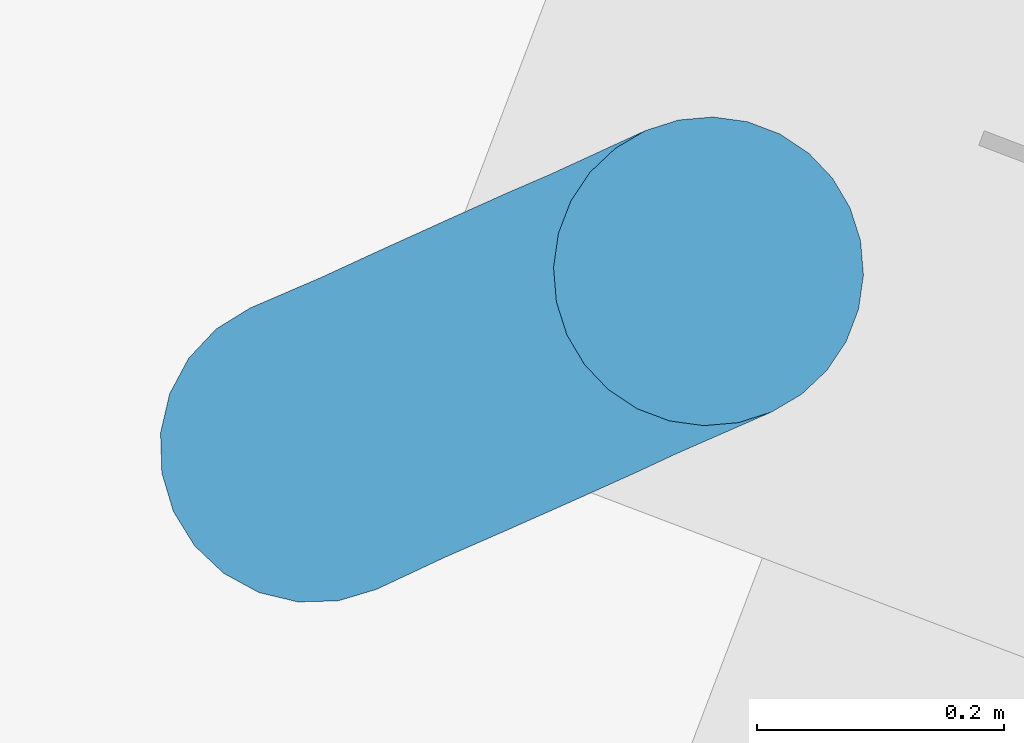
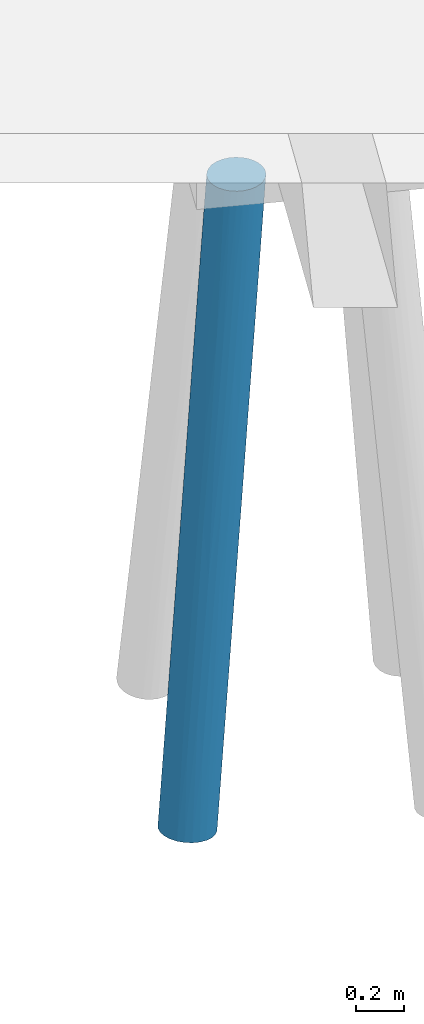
# One storey, part 13 of 46: 1 pile.
"""IFC2X3 building model written with IfcOpenShell, lengths in millimetres."""

from ifc_helpers import new_model, entity, si_unit, converted_unit, derived_unit, direction, frame, origin, place, context, subcontext, project, spatial, faceted_brep, source, transform, mapped, material, type_object, type_shapes, element, save


model = new_model("IFC2X3")

# Units and contexts
model_context = context("Model", 3, precision=0.01, world=origin(), true_north=direction((6.123233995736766e-17, 1.0)))
body_context = subcontext(model_context, "Body", "Model", "MODEL_VIEW")
ifc_project = project(units=[si_unit("LENGTHUNIT", "METRE", prefix="MILLI"), converted_unit("PLANEANGLEUNIT", "DEGREE", entity("IfcPlaneAngleMeasure", 0.017453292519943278), si_unit("PLANEANGLEUNIT", "RADIAN"), dimensions=[0, 0, 0, 0, 0, 0, 0]), si_unit("AREAUNIT", "SQUARE_METRE"), derived_unit("THERMALTRANSMITTANCEUNIT", [(si_unit("MASSUNIT", "GRAM", prefix="KILO"), 1), (si_unit("THERMODYNAMICTEMPERATUREUNIT", "KELVIN"), -1), (si_unit("TIMEUNIT", "SECOND"), -3)])], contexts=[model_context])

# Site, building, storey
site_placement = place(None, frame((-72937.88054949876, 11621.45624098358, 0.0), z_axis=(0.0, 0.0, 1.0), x_axis=(0.9346418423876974, -0.35559053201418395, 0.0)))
site = spatial("IfcSite", under=ifc_project, at=site_placement, Name="Default", CompositionType="ELEMENT")
building_placement = place(site_placement, origin())
building = spatial("IfcBuilding", under=site, at=building_placement, CompositionType="ELEMENT")
storey_placement = place(building_placement, origin())
storey = spatial("IfcBuildingStorey", under=building, at=storey_placement, Name="00 begane grond", CompositionType="ELEMENT", Elevation=0.0)

# Pile
ifc_material = material(Name="beton_gewapend_prefab-element_c45/55")
type_product = type_object("IfcTypeProduct", Name="Type 01", material=ifc_material)
shared_shape = source(origin(), body_context, "Body", "Brep", [
    faceted_brep([(50.02983679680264, 41.219149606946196, -1478.3429510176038), (41.770052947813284, 0.0, -1615.992665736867), (-21.492869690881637, 34.07967924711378, -2142.478153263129), (-196.51418126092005, 41.35907440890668, -1560.459568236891), (-209.7685117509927, 0.0, -1615.993463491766), (-120.39371842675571, 27.815116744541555, -840.0), (-105.46135978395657, 105.60554685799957, -2414.744852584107), (-29.01608810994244, 89.9027707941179, -1907.5825387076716), (-88.8773638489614, 91.39060439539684, -2432.143714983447), (44.04069234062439, 66.4881713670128, -1422.150587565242), (100.55257203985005, 77.93622523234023, -840.0), (115.53639022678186, 54.235467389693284, -840.0), (-181.63351961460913, 47.83542906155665, -3540.4622999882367), (-228.8866429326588, 32.35238063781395, -4013.333582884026), (-241.29781855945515, 62.499999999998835, -4011.9545633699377), (124.838162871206, 27.815116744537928, -840.0), (127.99146025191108, 0.0, -840.0), (80.6380595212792, 97.7289353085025, -840.0), (-1.0422673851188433, 115.29700921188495, -1306.6345347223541), (56.79144948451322, 112.62110848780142, -840.0), (-82.66188090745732, 124.23733970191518, -1479.1096584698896), (-119.59016639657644, 124.77532272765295, -1868.4753366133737), (-148.0004270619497, 121.55050259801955, -1927.9224619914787), (-25.764066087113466, 121.86598902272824, -840.0), (2.2222222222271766, 125.0, -840.0), (35.238837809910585, 88.30507823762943, -1343.9943162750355), (30.208510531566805, 121.86598902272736, -840.0), (-38.42848163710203, 123.4640225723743, -1382.7576650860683), (-59.298226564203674, 117.91120533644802, -1769.4495348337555), (-121.64165871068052, 118.88184081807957, -2304.5646505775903), (-105.46067851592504, 124.17311504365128, -1939.1271630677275), (-181.54271840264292, 0.0, -3625.807607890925), (-224.65342205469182, 0.0, -4013.803940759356), (-186.42266103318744, 99.1691675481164, -3226.87509877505), (-111.16783038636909, 79.40373738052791, -2734.7208670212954), (-187.86059930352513, 76.09517863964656, -3448.7603995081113), (-294.2594631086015, 123.9306076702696, -3360.5895502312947), (-348.8888888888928, 125.0, -4000.0), (-381.04339378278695, 120.74072828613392, -3996.4272772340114), (-71.50265177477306, 37.61355729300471, -2582.985799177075), (-105.1394697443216, 22.11026756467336, -2920.330251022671), (-119.53291308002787, 47.835429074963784, -2981.5568411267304), (-160.26870491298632, 23.53094104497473, -3414.1045295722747), (-238.88036705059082, 115.48494156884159, -3443.09153660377), (-286.7711554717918, 108.25317547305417, -4006.901970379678), (-261.04114782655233, 88.38834764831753, -4009.7608601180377), (-316.7343839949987, 120.74072828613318, -4003.5727227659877), (-61.65923548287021, 74.64816535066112, -2322.8523974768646), (-84.00174733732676, 60.02171841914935, -2608.908596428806), (-151.97718420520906, 123.99260475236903, -2371.21148137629), (-173.2739820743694, 115.31995815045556, -2856.223431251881), (-123.54701580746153, 0.0, -840.0), (-295.99000769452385, 0.0, -2391.9869269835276), (-250.82857575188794, 22.617884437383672, -2004.2180489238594), (-107.44397040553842, 105.89787173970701, -1225.6035634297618), (-76.19361507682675, 97.72893530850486, -840.0), (-52.347005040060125, 112.6211084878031, -840.0), (-281.4812245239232, 123.93060767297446, -3541.076638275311), (-109.06614769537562, 117.57336724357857, -1457.2474766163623), (-111.0919457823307, 54.235467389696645, -840.0), (-15.85514051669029, 105.72630914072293, -1606.5585830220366), (-158.7756678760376, 105.96661342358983, -1688.5825591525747), (-146.68659472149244, 88.47759853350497, -1380.5978408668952), (-404.9818286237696, 23.95962394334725, -3393.901362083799), (-384.5571817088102, 0.0, -3189.0914931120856), (-348.5966640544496, 22.310072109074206, -2883.6216315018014), (-456.47995921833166, 62.500000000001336, -3988.0454366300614), (-468.89113484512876, 32.35238063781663, -3986.6664171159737), (-416.28748070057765, 47.83542904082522, -3560.8267027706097), (-337.6622645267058, 115.48494156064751, -3465.7921474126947), (-411.00662230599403, 108.25317547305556, -3993.0980296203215), (-204.57839676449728, 89.69967503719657, -1912.868459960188), (-241.9682357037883, 100.09571921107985, -2359.71747411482), (-255.69185443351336, 84.13968982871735, -2324.129304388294), (-96.10812759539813, 77.93622523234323, -840.0), (-377.92930595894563, 99.16916753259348, -3572.292603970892), (-436.73662995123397, 88.38834764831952, -3990.239139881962), (-206.9618348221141, 60.37792335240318, -1731.5361763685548), (-296.17437932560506, 43.53585544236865, -2464.5182361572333), (-358.4295495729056, 47.83542903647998, -3040.1053226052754), (-379.61635653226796, 76.09517861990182, -3378.5322028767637), (-430.0136077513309, 0.0, -3598.1993274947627), (-306.3551153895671, 77.61365432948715, -2729.901333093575), (-213.4617402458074, 118.14633713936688, -2411.4959163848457), (-159.2186646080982, 65.41382269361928, -1328.4086999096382), (-67.97340634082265, 109.92592992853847, -2010.6352011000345), (-179.43548008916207, 124.76102802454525, -2404.960456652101), (-13.219750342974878, 66.34050229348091, -1938.3332116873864), (-236.1740964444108, 124.51562049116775, -2886.015168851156), (-270.1086403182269, 119.49229851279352, -2958.6820679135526), (-268.3059733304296, 110.2317272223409, -2741.026078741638), (-320.7170568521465, 99.16916752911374, -3057.382361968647), (-473.12435572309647, 0.0, -3986.1960592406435), (-138.91569201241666, 99.37675608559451, -2796.855638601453), (-220.46267944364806, 123.93060767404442, -2991.909732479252), (-44.45135435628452, 0.0, -2391.9853314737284), (-247.1590829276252, 66.69543969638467, -2127.0964328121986), (-134.55238820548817, 0.0, -3202.8946361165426), (-89.50217198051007, 0.0, -2797.442690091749), (-340.273594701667, 0.0, -2790.5392100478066), (-303.09738986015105, 21.900839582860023, -2473.462328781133), (-246.59414544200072, 45.758522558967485, -2025.9931784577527), (-120.39371842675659, -27.815116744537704, -840.0), (-111.09194578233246, -54.23546738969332, -840.0), (-96.1081275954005, -77.93622523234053, -840.0), (-76.19361507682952, -97.72893530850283, -840.0), (-52.3470050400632, -112.62110848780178, -840.0), (-25.764066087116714, -121.86598902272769, -840.0), (2.22222222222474, -125.0, -840.0), (30.20851053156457, -121.86598902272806, -840.0), (56.7914494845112, -112.62110848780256, -840.0), (80.63805952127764, -97.72893530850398, -840.0), (100.55257203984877, -77.93622523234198, -840.0), (115.53639022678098, -54.23546738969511, -840.0), (124.83816287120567, -27.815116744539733, -840.0), (-241.96823566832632, -100.09571920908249, -2359.717473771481), (-268.30597321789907, -110.23172722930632, -2741.026077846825), (-213.46174017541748, -118.14633716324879, -2411.4959163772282), (-187.1422997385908, -67.5957584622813, -1592.1374826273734), (-196.5141812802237, -41.359074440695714, -1560.4595685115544), (-82.66188086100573, -124.2373397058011, -1479.1096583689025), (-13.219750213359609, -66.3405022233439, -1938.3332109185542), (35.23883807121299, -88.30507821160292, -1343.9943141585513), (-29.016087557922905, -89.90277069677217, -1907.5825346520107), (-109.06614766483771, -117.57336725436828, -1457.2474766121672), (-294.2594631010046, -123.93060767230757, -3360.5895503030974), (-337.66226453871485, -115.48494156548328, -3465.7921476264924), (-381.04339378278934, -120.74072828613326, -3996.4272772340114), (-320.717056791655, -99.16916754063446, -3057.382361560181), (-379.61635651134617, -76.09517863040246, -3378.53220276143), (-377.9293059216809, -99.16916753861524, -3572.292603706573), (-186.42266103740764, -99.16916753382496, -3226.875098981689), (-238.88036707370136, -115.48494156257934, -3443.0915369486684), (-286.77115547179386, -108.25317547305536, -4006.901970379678), (-228.88664293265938, -32.352380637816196, -4013.333582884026), (-181.63351956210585, -47.835429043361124, -3540.4622995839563), (-241.29781855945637, -62.50000000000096, -4011.9545633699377), (-107.44397039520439, -105.89787175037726, -1225.6035634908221), (-38.428481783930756, -123.46402262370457, -1382.7576634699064), (-468.89113484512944, -32.35238063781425, -3986.6664171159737), (-138.91569233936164, -99.37675620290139, -2796.855640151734), (-173.2739821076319, -115.31995832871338, -2856.223427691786), (-160.26870486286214, -23.530941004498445, -3414.104529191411), (-187.86059935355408, -76.09517862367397, -3448.760400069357), (-261.041147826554, -88.38834764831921, -4009.7608601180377), (-306.3551154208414, -77.61365434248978, -2729.901333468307), (-348.8888888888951, -125.0, -4000.0), (-416.2874806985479, -47.83542904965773, -3560.826702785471), (-456.47995921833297, -62.49999999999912, -3988.0454366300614), (-436.7366299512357, -88.38834764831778, -3990.239139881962), (-411.0066223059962, -108.25317547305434, -3993.0980296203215), (-71.50265159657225, -37.613557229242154, -2582.9857977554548), (-21.492869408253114, -34.07967918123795, -2142.4781508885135), (-84.00174724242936, -60.02171839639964, -2608.9085956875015), (-281.4812244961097, -123.9306076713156, -3541.076638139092), (-220.46267940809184, -123.93060767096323, -2991.9097323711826), (-158.7756678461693, -105.9666134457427, -1688.5825592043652), (-148.00042700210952, -121.5505026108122, -1927.922461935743), (-1.0422669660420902, -115.29700910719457, -1306.6345332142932), (-59.298225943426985, -117.91120535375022, -1769.4495288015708), (-15.85514048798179, -105.72630911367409, -1606.5585831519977), (-270.1086403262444, -119.4922985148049, -2958.682068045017), (50.02983688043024, -41.21914955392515, -1478.342950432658), (-146.6865947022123, -88.47759855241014, -1380.5978408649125), (-296.1743793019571, -43.53585546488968, -2464.5182360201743), (-348.59666404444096, -22.310072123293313, -2883.6216314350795), (-358.42954957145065, -47.83542905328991, -3040.1053226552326), (57.21126448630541, -65.80573689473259, -1307.4694469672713), (-67.97340649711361, -109.92593000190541, -2010.6352012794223), (-121.64165783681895, -118.88184074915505, -2304.564644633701), (-105.13946990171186, -22.110267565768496, -2920.330252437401), (-179.43547996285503, -124.76102802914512, -2404.960456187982), (-316.73438399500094, -120.7407282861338, -4003.5727227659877), (-119.53291301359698, -47.8354290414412, -2981.5568406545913), (-250.82857577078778, -22.61788446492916, -2004.218049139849), (-404.98182862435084, -23.95962395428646, -3393.901362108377), (-61.65923550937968, -74.64816548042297, -2322.852396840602), (-243.17628094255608, -45.971171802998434, -1995.9919190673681), (-105.46135971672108, -105.60554680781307, -2414.7448526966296), (-111.16783063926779, -79.40373735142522, -2734.7208695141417), (-119.59016630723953, -124.77532273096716, -1868.4753363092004), (-236.1740963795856, -124.51562049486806, -2886.0151686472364), (-204.57839665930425, -89.69967507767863, -1912.868459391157), (-247.15908295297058, -66.69543974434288, -2127.09643331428), (-88.87736442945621, -91.39060438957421, -2432.1437202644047), (-255.69185439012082, -84.13968979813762, -2324.1293037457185), (-105.46067843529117, -124.17311503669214, -1939.1271628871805), (-168.17815851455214, -123.85607816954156, -2526.387901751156), (-303.0973898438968, -21.90083960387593, -2473.4623286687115)], [[[0, 1, 2]], [[3, 4, 5]], [[6, 7, 8]], [[9, 10, 11]], [[12, 13, 14]], [[15, 16, 1]], [[17, 18, 19]], [[20, 21, 22]], [[23, 24, 20]], [[25, 17, 10]], [[26, 18, 27]], [[27, 20, 24]], [[28, 29, 30]], [[31, 32, 13]], [[33, 34, 35]], [[36, 37, 38]], [[39, 40, 41]], [[41, 42, 12]], [[43, 33, 44]], [[45, 33, 35]], [[46, 43, 44]], [[34, 47, 48]], [[49, 29, 50]], [[4, 51, 5]], [[30, 27, 28]], [[52, 4, 53]], [[54, 55, 56]], [[37, 36, 57]], [[56, 23, 58]], [[46, 37, 57]], [[59, 3, 5]], [[11, 15, 0]], [[3, 53, 4]], [[7, 60, 25]], [[44, 33, 45]], [[54, 61, 62]], [[63, 64, 65]], [[66, 67, 68]], [[36, 38, 69]], [[70, 69, 38]], [[71, 72, 73]], [[74, 55, 62]], [[75, 70, 76]], [[71, 77, 62]], [[78, 79, 65]], [[80, 75, 76]], [[63, 81, 64]], [[82, 80, 79]], [[66, 80, 76]], [[61, 83, 72]], [[59, 84, 3]], [[85, 6, 29]], [[25, 10, 9]], [[86, 21, 30]], [[35, 14, 45]], [[33, 43, 50]], [[54, 56, 58]], [[22, 58, 20]], [[87, 0, 2]], [[0, 15, 1]], [[83, 86, 88]], [[40, 42, 41]], [[89, 69, 90]], [[84, 59, 74]], [[72, 71, 61]], [[91, 80, 82]], [[79, 80, 68]], [[14, 35, 12]], [[92, 81, 67]], [[41, 35, 34]], [[48, 39, 41]], [[93, 8, 34]], [[50, 93, 33]], [[94, 43, 57]], [[36, 69, 89]], [[91, 69, 75]], [[48, 41, 34]], [[95, 2, 1]], [[91, 82, 72]], [[78, 96, 82]], [[90, 91, 72]], [[71, 62, 61]], [[13, 42, 31]], [[41, 12, 35]], [[46, 57, 43]], [[94, 57, 36]], [[97, 31, 42]], [[40, 97, 42]], [[12, 42, 13]], [[98, 97, 40, 95]], [[2, 95, 39]], [[55, 54, 62]], [[61, 54, 58]], [[83, 61, 22]], [[20, 58, 23]], [[58, 22, 61]], [[86, 83, 22]], [[88, 89, 83]], [[29, 49, 30]], [[88, 36, 89]], [[83, 89, 90]], [[40, 39, 95]], [[87, 2, 48]], [[39, 48, 2]], [[87, 48, 47]], [[87, 47, 7]], [[47, 34, 8]], [[9, 0, 87]], [[85, 60, 7]], [[17, 25, 60]], [[87, 7, 9]], [[47, 8, 7]], [[6, 8, 93]], [[50, 6, 93]], [[33, 93, 34]], [[6, 50, 29]], [[50, 43, 94]], [[60, 85, 28]], [[49, 86, 30]], [[60, 28, 18]], [[28, 27, 18]], [[26, 27, 24]], [[20, 27, 21]], [[60, 18, 17]], [[26, 19, 18]], [[84, 62, 77]], [[82, 96, 73]], [[83, 90, 72]], [[91, 90, 69]], [[88, 94, 36]], [[94, 88, 49]], [[66, 68, 80]], [[68, 67, 63]], [[63, 65, 79]], [[81, 63, 67]], [[68, 63, 79]], [[78, 82, 79]], [[65, 99, 100]], [[53, 101, 78]], [[78, 65, 100]], [[70, 75, 69]], [[91, 75, 80]], [[71, 73, 96]], [[73, 72, 82]], [[28, 85, 29]], [[6, 85, 7]], [[52, 53, 100]], [[96, 78, 101]], [[3, 84, 77]], [[62, 84, 74]], [[22, 21, 86]], [[30, 21, 27]], [[0, 9, 11]], [[25, 9, 7]], [[86, 49, 88]], [[94, 49, 50]], [[78, 100, 53]], [[65, 64, 99]], [[52, 100, 99]], [[96, 101, 77]], [[101, 53, 3]], [[3, 77, 101]], [[96, 77, 71]], [[56, 55, 74, 59, 5, 51, 102, 103, 104, 105, 106, 107, 108, 109, 110, 111, 112, 113, 114, 16, 15, 11, 10, 17, 19, 26, 24, 23]], [[4, 102, 51]], [[115, 116, 117]], [[104, 103, 118]], [[103, 102, 119]], [[108, 107, 120]], [[121, 122, 123]], [[107, 124, 120]], [[125, 126, 127]], [[128, 129, 130]], [[131, 132, 133]], [[134, 135, 136]], [[106, 105, 137]], [[109, 108, 138]], [[81, 92, 139]], [[131, 140, 141]], [[31, 97, 142]], [[143, 131, 144]], [[145, 129, 128]], [[125, 127, 146]], [[147, 139, 148]], [[130, 149, 150]], [[151, 152, 153]], [[125, 154, 155]], [[156, 157, 124]], [[158, 159, 160]], [[119, 102, 4]], [[110, 109, 158]], [[126, 125, 161]], [[162, 114, 113]], [[111, 158, 160]], [[163, 137, 105]], [[164, 165, 166]], [[122, 112, 111]], [[1, 16, 114]], [[162, 113, 167]], [[122, 121, 167]], [[168, 159, 169]], [[142, 97, 170]], [[171, 157, 117]], [[146, 172, 154]], [[104, 118, 163]], [[160, 159, 168]], [[104, 163, 105]], [[131, 133, 144]], [[115, 145, 128]], [[143, 144, 136]], [[152, 162, 121]], [[148, 149, 129]], [[151, 153, 173]], [[4, 174, 119]], [[166, 175, 147]], [[176, 121, 123]], [[177, 174, 164]], [[178, 169, 141]], [[132, 172, 133]], [[173, 179, 143]], [[180, 157, 171]], [[137, 156, 124]], [[162, 1, 114]], [[95, 1, 152]], [[126, 150, 127]], [[32, 31, 134]], [[161, 181, 117]], [[115, 156, 182]], [[177, 183, 118]], [[148, 129, 147]], [[145, 164, 166]], [[172, 132, 154]], [[165, 175, 166]], [[178, 141, 140]], [[131, 143, 179]], [[173, 143, 135]], [[140, 184, 178]], [[121, 176, 153]], [[150, 126, 130]], [[117, 116, 161]], [[162, 152, 1]], [[151, 170, 95]], [[129, 145, 166]], [[182, 156, 163]], [[182, 183, 185]], [[156, 115, 117]], [[136, 135, 143]], [[135, 134, 142]], [[146, 154, 125]], [[155, 154, 132]], [[142, 170, 173]], [[31, 142, 134]], [[135, 142, 173]], [[173, 170, 151]], [[98, 95, 170, 97]], [[124, 107, 106]], [[156, 137, 163]], [[106, 137, 124]], [[120, 124, 157]], [[120, 157, 180]], [[117, 157, 156]], [[169, 186, 187]], [[125, 181, 161]], [[128, 126, 116]], [[171, 117, 181]], [[153, 179, 173]], [[152, 151, 95]], [[179, 153, 176]], [[121, 153, 152]], [[176, 184, 179]], [[123, 168, 178]], [[184, 176, 123]], [[122, 111, 160]], [[112, 167, 113]], [[123, 122, 160]], [[131, 179, 140]], [[178, 184, 123]], [[184, 140, 179]], [[132, 131, 141]], [[141, 155, 132]], [[155, 187, 181]], [[155, 141, 187]], [[159, 186, 169]], [[186, 159, 138]], [[138, 158, 109]], [[186, 138, 180]], [[120, 138, 108]], [[159, 158, 138]], [[110, 158, 111]], [[115, 182, 185]], [[183, 182, 118]], [[161, 116, 126]], [[128, 116, 115]], [[171, 181, 187]], [[181, 125, 155]], [[139, 175, 81]], [[166, 147, 129]], [[64, 81, 175]], [[165, 64, 175]], [[147, 175, 139]], [[99, 64, 165]], [[145, 183, 164]], [[164, 188, 165]], [[4, 52, 174]], [[149, 130, 129]], [[128, 130, 126]], [[185, 145, 115]], [[145, 185, 183]], [[160, 168, 123]], [[178, 168, 169]], [[119, 174, 177]], [[164, 174, 188]], [[119, 118, 103]], [[163, 118, 182]], [[120, 180, 138]], [[186, 180, 171]], [[162, 167, 121]], [[122, 167, 112]], [[171, 187, 186]], [[169, 187, 141]], [[165, 188, 99]], [[52, 99, 188]], [[52, 188, 174]], [[119, 177, 118]], [[183, 177, 164]], [[127, 150, 149, 148, 139, 92, 67, 66, 76, 70, 38, 37, 46, 44, 45, 14, 13, 32, 134, 136, 144, 133, 172, 146]]]),
])
type_shapes(type_product, [shared_shape])
pile_placement = place(storey_placement, frame((57270.0, 28460.0, 0.0), z_axis=(0.0, 0.0, 1.0), x_axis=(0.7071067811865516, 0.7071067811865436, 0.0)))
element("IfcPile", 1, at=pile_placement, inside=storey, type_object=type_product, material=ifc_material, Name="17.21_Prefab funderingspaal rond", ObjectType="prefab paal rond", PredefinedType="NOTDEFINED", context=body_context, shape_type="MappedRepresentation", body=[
    mapped(shared_shape, transform((0.0, 0.0, 0.0), scale=1.0)),
])

save(model, "model.ifc")
